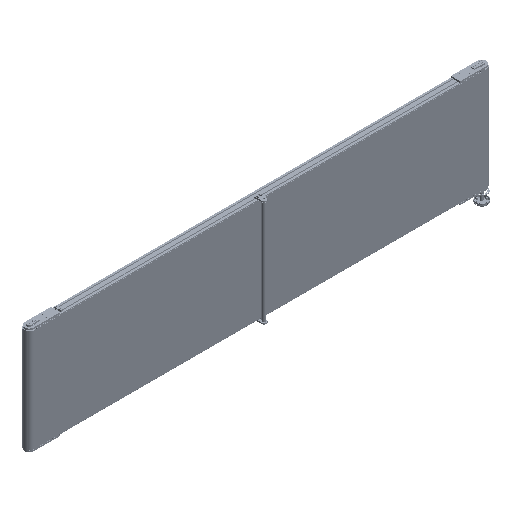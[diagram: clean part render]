
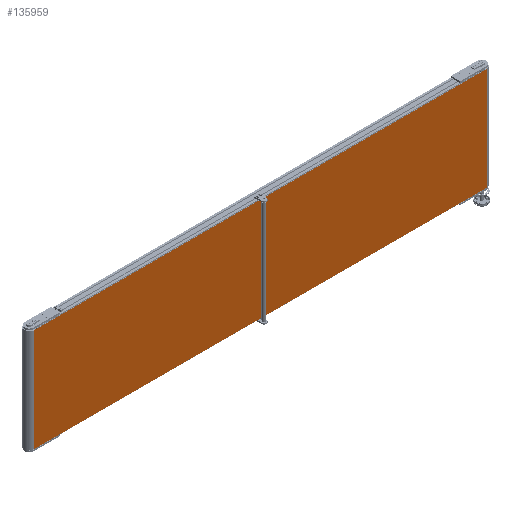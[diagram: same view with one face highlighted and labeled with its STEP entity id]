
A CAD part, isometric view. The second image highlights one B-rep face of the part: STEP entity #135959.
In plain terms, the highlighted planar face has unit normal (0, -1, 0).
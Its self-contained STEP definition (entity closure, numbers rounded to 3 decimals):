
#6600 = DIRECTION ( 'NONE',  ( 0., 0., 1. ) ) ;
#8415 = CARTESIAN_POINT ( 'NONE',  ( -2200., -49.5, 500. ) ) ;
#9941 = VERTEX_POINT ( 'NONE', #105796 ) ;
#13220 = EDGE_CURVE ( 'NONE', #173668, #93163, #140844, .T. ) ;
#24001 = CARTESIAN_POINT ( 'NONE',  ( 2200., -49.5, 500. ) ) ;
#34845 = VECTOR ( 'NONE', #85328, 1000. ) ;
#36169 = CARTESIAN_POINT ( 'NONE',  ( 2200., -49.5, -500. ) ) ;
#37351 = DIRECTION ( 'NONE',  ( 0., 1., 0. ) ) ;
#50445 = ORIENTED_EDGE ( 'NONE', *, *, #148874, .T. ) ;
#54093 = LINE ( 'NONE', #92282, #86654 ) ;
#54955 = ORIENTED_EDGE ( 'NONE', *, *, #13220, .F. ) ;
#55788 = AXIS2_PLACEMENT_3D ( 'NONE', #158829, #37351, #6600 ) ;
#66509 = LINE ( 'NONE', #68257, #86494 ) ;
#68257 = CARTESIAN_POINT ( 'NONE',  ( -2200., -49.5, -500. ) ) ;
#74024 = PLANE ( 'NONE',  #55788 ) ;
#78159 = FACE_OUTER_BOUND ( 'NONE', #151001, .T. ) ;
#79823 = DIRECTION ( 'NONE',  ( 1., 0., 0. ) ) ;
#85328 = DIRECTION ( 'NONE',  ( 1., 0., 0. ) ) ;
#86494 = VECTOR ( 'NONE', #79823, 1000. ) ;
#86654 = VECTOR ( 'NONE', #94909, 1000. ) ;
#92282 = CARTESIAN_POINT ( 'NONE',  ( -2200., -49.5, 500. ) ) ;
#93163 = VERTEX_POINT ( 'NONE', #36169 ) ;
#94909 = DIRECTION ( 'NONE',  ( 0., 0., -1. ) ) ;
#102747 = DIRECTION ( 'NONE',  ( 0., 0., -1. ) ) ;
#103083 = ORIENTED_EDGE ( 'NONE', *, *, #129802, .F. ) ;
#105796 = CARTESIAN_POINT ( 'NONE',  ( -2200., -49.5, -500. ) ) ;
#107672 = ORIENTED_EDGE ( 'NONE', *, *, #134187, .T. ) ;
#118726 = VERTEX_POINT ( 'NONE', #8415 ) ;
#124349 = LINE ( 'NONE', #151816, #34845 ) ;
#129802 = EDGE_CURVE ( 'NONE', #118726, #173668, #124349, .T. ) ;
#134187 = EDGE_CURVE ( 'NONE', #9941, #93163, #66509, .T. ) ;
#135959 = ADVANCED_FACE ( 'NONE', ( #78159 ), #74024, .F. ) ;
#140844 = LINE ( 'NONE', #154165, #159326 ) ;
#148874 = EDGE_CURVE ( 'NONE', #118726, #9941, #54093, .T. ) ;
#151001 = EDGE_LOOP ( 'NONE', ( #107672, #54955, #103083, #50445 ) ) ;
#151816 = CARTESIAN_POINT ( 'NONE',  ( -2200., -49.5, 500. ) ) ;
#154165 = CARTESIAN_POINT ( 'NONE',  ( 2200., -49.5, 500. ) ) ;
#158829 = CARTESIAN_POINT ( 'NONE',  ( -2200., -49.5, 500. ) ) ;
#159326 = VECTOR ( 'NONE', #102747, 1000. ) ;
#173668 = VERTEX_POINT ( 'NONE', #24001 ) ;
